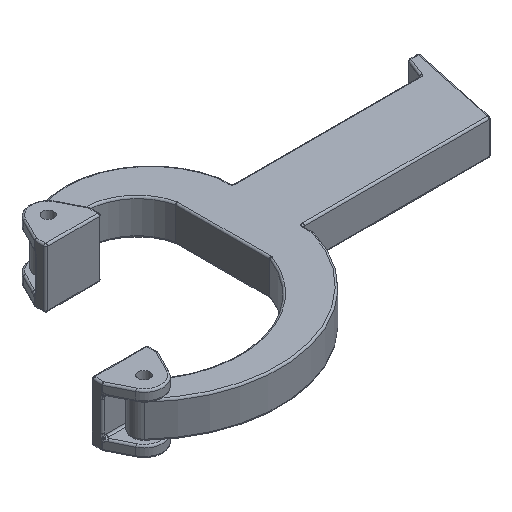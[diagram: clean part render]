
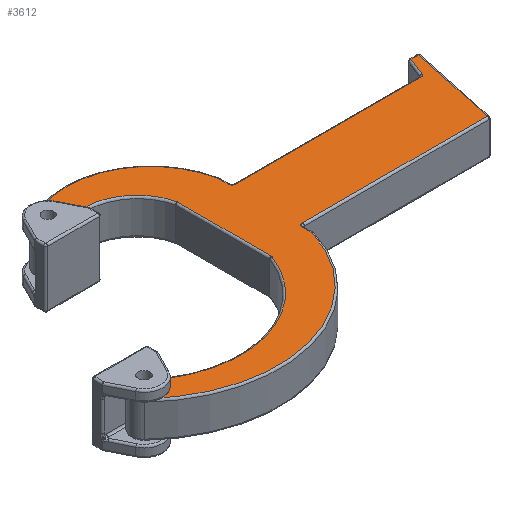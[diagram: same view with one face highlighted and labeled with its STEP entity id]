
A CAD part, isometric view. The second image highlights one B-rep face of the part: STEP entity #3612.
In plain terms, the highlighted planar face has unit normal (0, 0, 1).
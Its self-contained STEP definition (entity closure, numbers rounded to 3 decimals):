
#23=FACE_BOUND('',#941,.T.);
#24=FACE_BOUND('',#942,.T.);
#46=PLANE('',#4018);
#177=LINE('',#9045,#343);
#181=LINE('',#9130,#347);
#188=LINE('',#9217,#354);
#199=LINE('',#9252,#365);
#204=LINE('',#9274,#370);
#212=LINE('',#9286,#378);
#218=LINE('',#9310,#384);
#226=LINE('',#9322,#392);
#343=VECTOR('',#4527,10.);
#347=VECTOR('',#4629,10.);
#354=VECTOR('',#4734,10.);
#365=VECTOR('',#4777,10.);
#370=VECTOR('',#4808,10.);
#378=VECTOR('',#4824,10.);
#384=VECTOR('',#4858,10.);
#392=VECTOR('',#4874,10.);
#692=FACE_OUTER_BOUND('',#940,.T.);
#940=EDGE_LOOP('',(#2933,#2934,#2935,#2936,#2937,#2938,#2939,#2940,#2941,
#2942,#2943,#2944,#2945,#2946,#2947,#2948,#2949,#2950,#2951));
#941=EDGE_LOOP('',(#2952));
#942=EDGE_LOOP('',(#2953));
#1127=CIRCLE('',#3848,1.55);
#1129=CIRCLE('',#3851,1.55);
#1133=CIRCLE('',#3856,1.);
#1150=CIRCLE('',#3879,1.);
#1153=CIRCLE('',#3883,28.965);
#1156=CIRCLE('',#3887,3.);
#1159=CIRCLE('',#3891,37.249);
#1172=CIRCLE('',#3909,1.);
#1189=CIRCLE('',#3933,14.269);
#1192=CIRCLE('',#3937,3.);
#1193=CIRCLE('',#3939,22.731);
#1200=CIRCLE('',#3949,1.);
#1205=CIRCLE('',#3956,1.);
#1541=VERTEX_POINT('',#9017);
#1543=VERTEX_POINT('',#9023);
#1547=VERTEX_POINT('',#9032);
#1548=VERTEX_POINT('',#9034);
#1551=VERTEX_POINT('',#9041);
#1558=VERTEX_POINT('',#9060);
#1564=VERTEX_POINT('',#9074);
#1565=VERTEX_POINT('',#9076);
#1567=VERTEX_POINT('',#9081);
#1569=VERTEX_POINT('',#9087);
#1575=VERTEX_POINT('',#9108);
#1582=VERTEX_POINT('',#9124);
#1583=VERTEX_POINT('',#9126);
#1589=VERTEX_POINT('',#9146);
#1596=VERTEX_POINT('',#9162);
#1597=VERTEX_POINT('',#9166);
#1599=VERTEX_POINT('',#9172);
#1606=VERTEX_POINT('',#9194);
#1607=VERTEX_POINT('',#9196);
#1611=VERTEX_POINT('',#9207);
#1612=VERTEX_POINT('',#9208);
#1937=EDGE_CURVE('',#1541,#1541,#1127,.T.);
#1940=EDGE_CURVE('',#1543,#1543,#1129,.T.);
#1945=EDGE_CURVE('',#1547,#1548,#1133,.T.);
#1950=EDGE_CURVE('',#1548,#1551,#177,.T.);
#1964=EDGE_CURVE('',#1564,#1565,#1150,.T.);
#1967=EDGE_CURVE('',#1567,#1564,#1153,.T.);
#1970=EDGE_CURVE('',#1569,#1567,#1156,.T.);
#1973=EDGE_CURVE('',#1551,#1569,#1159,.T.);
#1988=EDGE_CURVE('',#1582,#1583,#1172,.T.);
#1990=EDGE_CURVE('',#1565,#1582,#181,.T.);
#2009=EDGE_CURVE('',#1583,#1597,#1189,.T.);
#2012=EDGE_CURVE('',#1597,#1599,#1192,.T.);
#2013=EDGE_CURVE('',#1599,#1596,#1193,.T.);
#2022=EDGE_CURVE('',#1606,#1607,#1200,.T.);
#2027=EDGE_CURVE('',#1611,#1612,#1205,.T.);
#2032=EDGE_CURVE('',#1612,#1606,#188,.T.);
#2051=EDGE_CURVE('',#1596,#1611,#199,.T.);
#2064=EDGE_CURVE('',#1607,#1589,#204,.T.);
#2072=EDGE_CURVE('',#1589,#1575,#212,.T.);
#2086=EDGE_CURVE('',#1575,#1558,#218,.T.);
#2094=EDGE_CURVE('',#1558,#1547,#226,.T.);
#2933=ORIENTED_EDGE('',*,*,#2027,.F.);
#2934=ORIENTED_EDGE('',*,*,#2051,.F.);
#2935=ORIENTED_EDGE('',*,*,#2013,.F.);
#2936=ORIENTED_EDGE('',*,*,#2012,.F.);
#2937=ORIENTED_EDGE('',*,*,#2009,.F.);
#2938=ORIENTED_EDGE('',*,*,#1988,.F.);
#2939=ORIENTED_EDGE('',*,*,#1990,.F.);
#2940=ORIENTED_EDGE('',*,*,#1964,.F.);
#2941=ORIENTED_EDGE('',*,*,#1967,.F.);
#2942=ORIENTED_EDGE('',*,*,#1970,.F.);
#2943=ORIENTED_EDGE('',*,*,#1973,.F.);
#2944=ORIENTED_EDGE('',*,*,#1950,.F.);
#2945=ORIENTED_EDGE('',*,*,#1945,.F.);
#2946=ORIENTED_EDGE('',*,*,#2094,.F.);
#2947=ORIENTED_EDGE('',*,*,#2086,.F.);
#2948=ORIENTED_EDGE('',*,*,#2072,.F.);
#2949=ORIENTED_EDGE('',*,*,#2064,.F.);
#2950=ORIENTED_EDGE('',*,*,#2022,.F.);
#2951=ORIENTED_EDGE('',*,*,#2032,.F.);
#2952=ORIENTED_EDGE('',*,*,#1937,.T.);
#2953=ORIENTED_EDGE('',*,*,#1940,.T.);
#3612=ADVANCED_FACE('',(#692,#23,#24),#46,.F.);
#3848=AXIS2_PLACEMENT_3D('',#9018,#4495,#4496);
#3851=AXIS2_PLACEMENT_3D('',#9024,#4502,#4503);
#3856=AXIS2_PLACEMENT_3D('',#9035,#4513,#4514);
#3879=AXIS2_PLACEMENT_3D('',#9077,#4561,#4562);
#3883=AXIS2_PLACEMENT_3D('',#9083,#4569,#4570);
#3887=AXIS2_PLACEMENT_3D('',#9089,#4577,#4578);
#3891=AXIS2_PLACEMENT_3D('',#9093,#4585,#4586);
#3909=AXIS2_PLACEMENT_3D('',#9127,#4623,#4624);
#3933=AXIS2_PLACEMENT_3D('',#9170,#4675,#4676);
#3937=AXIS2_PLACEMENT_3D('',#9176,#4683,#4684);
#3939=AXIS2_PLACEMENT_3D('',#9178,#4687,#4688);
#3949=AXIS2_PLACEMENT_3D('',#9197,#4709,#4710);
#3956=AXIS2_PLACEMENT_3D('',#9209,#4723,#4724);
#4018=AXIS2_PLACEMENT_3D('',#9333,#4891,#4892);
#4495=DIRECTION('center_axis',(0.,0.,-1.));
#4496=DIRECTION('ref_axis',(1.,0.,0.));
#4502=DIRECTION('center_axis',(0.,0.,-1.));
#4503=DIRECTION('ref_axis',(1.,0.,0.));
#4513=DIRECTION('center_axis',(0.,0.,1.));
#4514=DIRECTION('ref_axis',(-0.707,0.707,0.));
#4527=DIRECTION('',(0.,-1.,0.));
#4561=DIRECTION('center_axis',(0.,0.,1.));
#4562=DIRECTION('ref_axis',(0.984,-0.181,0.));
#4569=DIRECTION('center_axis',(0.,0.,1.));
#4570=DIRECTION('ref_axis',(0.241,-0.971,0.));
#4577=DIRECTION('center_axis',(0.,0.,-1.));
#4578=DIRECTION('ref_axis',(-0.736,0.677,0.));
#4585=DIRECTION('center_axis',(0.,0.,-1.));
#4586=DIRECTION('ref_axis',(0.255,-0.967,0.));
#4623=DIRECTION('center_axis',(0.,0.,1.));
#4624=DIRECTION('ref_axis',(0.994,0.112,0.));
#4629=DIRECTION('',(0.,1.,0.));
#4675=DIRECTION('center_axis',(0.,0.,1.));
#4676=DIRECTION('ref_axis',(0.369,0.929,0.));
#4683=DIRECTION('center_axis',(0.,0.,-1.));
#4684=DIRECTION('ref_axis',(-0.807,-0.59,0.));
#4687=DIRECTION('center_axis',(0.,0.,-1.));
#4688=DIRECTION('ref_axis',(0.353,0.936,0.));
#4709=DIRECTION('center_axis',(0.,0.,1.));
#4710=DIRECTION('ref_axis',(0.559,-0.829,0.));
#4723=DIRECTION('center_axis',(0.,0.,1.));
#4724=DIRECTION('ref_axis',(-0.707,-0.707,0.));
#4734=DIRECTION('',(1.,0.,0.));
#4777=DIRECTION('',(0.,-1.,0.));
#4808=DIRECTION('',(0.375,0.927,0.));
#4824=DIRECTION('',(1.,0.,0.));
#4858=DIRECTION('',(-0.209,-0.978,0.));
#4874=DIRECTION('',(-1.,0.,0.));
#4891=DIRECTION('center_axis',(0.,0.,-1.));
#4892=DIRECTION('ref_axis',(1.,0.,0.));
#9017=CARTESIAN_POINT('',(-10.644,6.8,12.825));
#9018=CARTESIAN_POINT('Origin',(-9.094,6.8,12.825));
#9023=CARTESIAN_POINT('',(-35.366,-43.8,12.825));
#9024=CARTESIAN_POINT('Origin',(-33.816,-43.8,12.825));
#9032=CARTESIAN_POINT('',(26.5,-26.225,12.825));
#9034=CARTESIAN_POINT('',(25.5,-27.225,12.825));
#9035=CARTESIAN_POINT('Origin',(26.5,-27.225,12.825));
#9041=CARTESIAN_POINT('',(25.5,-29.826,12.825));
#9045=CARTESIAN_POINT('',(25.5,-23.921,12.825));
#9060=CARTESIAN_POINT('',(76.395,-26.225,12.825));
#9074=CARTESIAN_POINT('',(14.435,-30.164,12.825));
#9076=CARTESIAN_POINT('',(14.5,-29.808,12.825));
#9077=CARTESIAN_POINT('Origin',(13.5,-29.808,12.825));
#9081=CARTESIAN_POINT('',(-31.828,-41.553,12.825));
#9083=CARTESIAN_POINT('Origin',(-12.635,-19.86,12.825));
#9087=CARTESIAN_POINT('',(-35.889,-45.969,12.825));
#9089=CARTESIAN_POINT('Origin',(-33.816,-43.8,12.825));
#9093=CARTESIAN_POINT('Origin',(-10.153,-19.04,12.825));
#9108=CARTESIAN_POINT('',(81.43,-2.612,12.825));
#9124=CARTESIAN_POINT('',(14.5,-4.556,12.825));
#9126=CARTESIAN_POINT('',(14.475,-4.333,12.825));
#9127=CARTESIAN_POINT('Origin',(13.5,-4.556,12.825));
#9130=CARTESIAN_POINT('',(14.5,-25.508,12.825));
#9146=CARTESIAN_POINT('',(79.385,-2.612,12.825));
#9162=CARTESIAN_POINT('',(25.5,-4.546,12.825));
#9166=CARTESIAN_POINT('',(-7.416,4.313,12.825));
#9170=CARTESIAN_POINT('Origin',(0.565,-7.515,12.825));
#9172=CARTESIAN_POINT('',(-10.956,9.153,12.825));
#9176=CARTESIAN_POINT('Origin',(-9.094,6.8,12.825));
#9178=CARTESIAN_POINT('Origin',(3.147,-8.674,12.825));
#9194=CARTESIAN_POINT('',(76.463,-8.175,12.825));
#9196=CARTESIAN_POINT('',(77.39,-7.55,12.825));
#9197=CARTESIAN_POINT('Origin',(76.463,-7.175,12.825));
#9207=CARTESIAN_POINT('',(25.5,-7.175,12.825));
#9208=CARTESIAN_POINT('',(26.5,-8.175,12.825));
#9209=CARTESIAN_POINT('Origin',(26.5,-7.175,12.825));
#9217=CARTESIAN_POINT('',(24.183,-8.175,12.825));
#9252=CARTESIAN_POINT('',(25.5,-12.808,12.825));
#9274=CARTESIAN_POINT('',(71.11,-23.093,12.825));
#9286=CARTESIAN_POINT('',(50.707,-2.612,12.825));
#9310=CARTESIAN_POINT('',(78.323,-17.182,12.825));
#9322=CARTESIAN_POINT('',(49.583,-26.225,12.825));
#9333=CARTESIAN_POINT('Origin',(22.366,-21.116,12.825));
